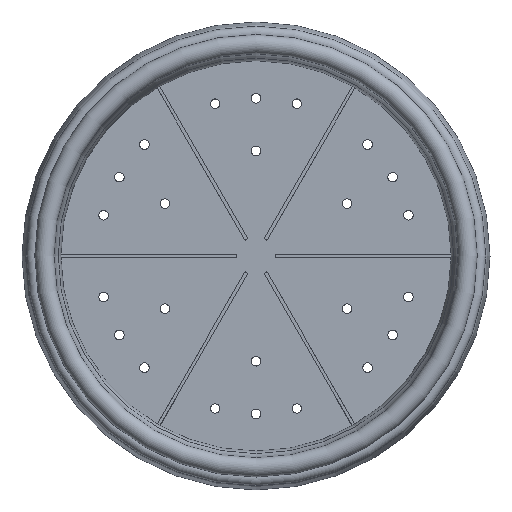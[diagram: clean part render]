
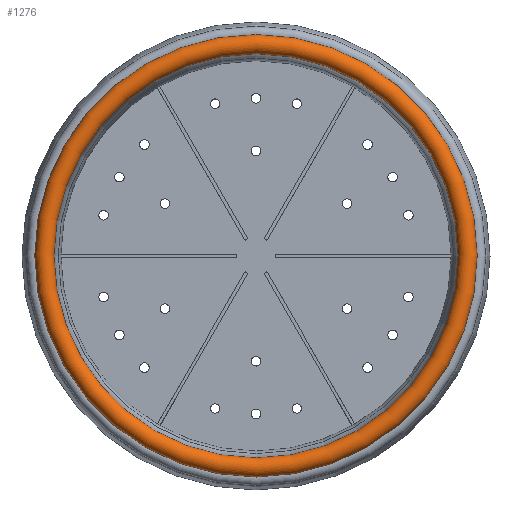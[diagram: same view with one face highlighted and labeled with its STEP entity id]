
A CAD part, top view. The second image highlights one B-rep face of the part: STEP entity #1276.
In plain terms, the highlighted toroidal (fillet/blend) face has major radius 110.68 mm and minor radius 5 mm.
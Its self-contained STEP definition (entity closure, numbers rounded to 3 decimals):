
#18=TOROIDAL_SURFACE('',#1441,110.68,5.);
#154=FACE_OUTER_BOUND('',#245,.T.);
#245=EDGE_LOOP('',(#1097,#1098,#1099,#1100));
#522=CIRCLE('',#1440,114.51);
#523=CIRCLE('',#1442,105.68);
#524=CIRCLE('',#1443,5.);
#643=VERTEX_POINT('',#2201);
#644=VERTEX_POINT('',#2205);
#810=EDGE_CURVE('',#643,#643,#522,.T.);
#812=EDGE_CURVE('',#644,#644,#523,.T.);
#813=EDGE_CURVE('',#644,#643,#524,.T.);
#1097=ORIENTED_EDGE('',*,*,#812,.F.);
#1098=ORIENTED_EDGE('',*,*,#813,.T.);
#1099=ORIENTED_EDGE('',*,*,#810,.T.);
#1100=ORIENTED_EDGE('',*,*,#813,.F.);
#1276=ADVANCED_FACE('',(#154),#18,.T.);
#1440=AXIS2_PLACEMENT_3D('',#2202,#1821,#1822);
#1441=AXIS2_PLACEMENT_3D('',#2204,#1824,#1825);
#1442=AXIS2_PLACEMENT_3D('',#2206,#1826,#1827);
#1443=AXIS2_PLACEMENT_3D('',#2207,#1828,#1829);
#1821=DIRECTION('center_axis',(0.,0.,1.));
#1822=DIRECTION('ref_axis',(1.,0.,0.));
#1824=DIRECTION('center_axis',(0.,0.,1.));
#1825=DIRECTION('ref_axis',(1.,0.,0.));
#1826=DIRECTION('center_axis',(0.,0.,1.));
#1827=DIRECTION('ref_axis',(1.,0.,0.));
#1828=DIRECTION('center_axis',(0.,-1.,0.));
#1829=DIRECTION('ref_axis',(-1.,0.,0.));
#2201=CARTESIAN_POINT('',(-114.51,0.,91.786));
#2202=CARTESIAN_POINT('Origin',(0.,0.,91.786));
#2204=CARTESIAN_POINT('Origin',(0.,0.,95.));
#2205=CARTESIAN_POINT('',(-105.68,0.,95.));
#2206=CARTESIAN_POINT('Origin',(0.,0.,95.));
#2207=CARTESIAN_POINT('Origin',(-110.68,0.,
95.));
